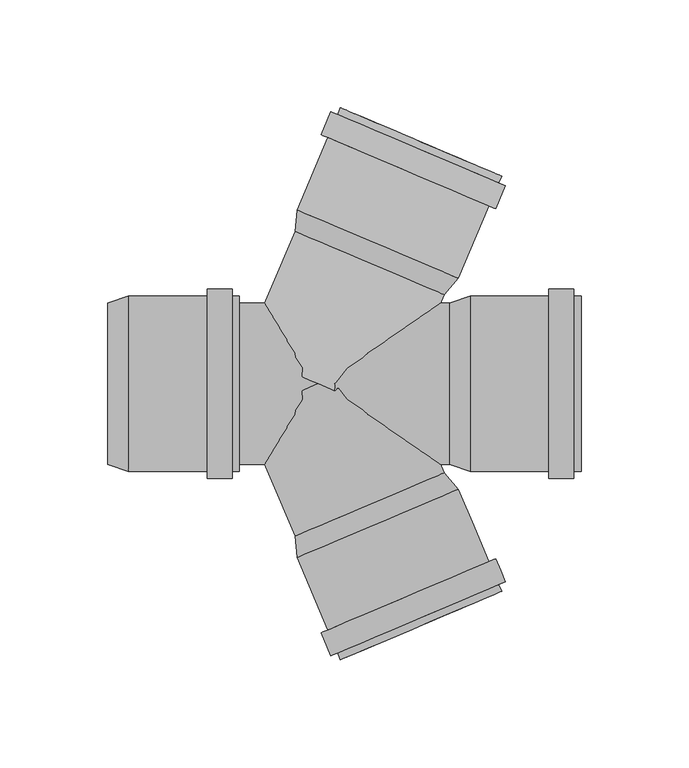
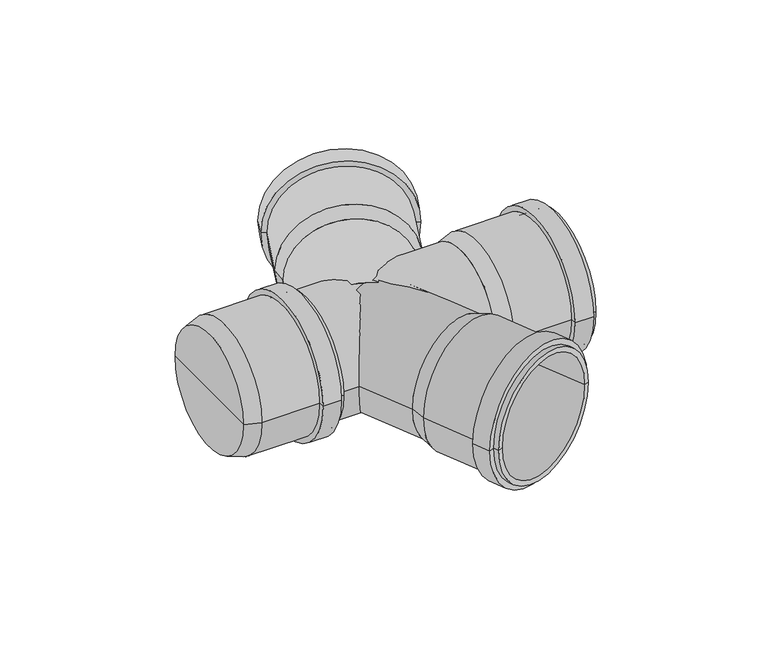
"""IFC4 building model written with IfcOpenShell, lengths in millimetres: pipe fitting geometry, pf_HTDA : pf_HTDA."""

from ifc_helpers import new_model, si_unit, point, frame, origin, origin_2d, place, context, project, spatial, polyline, circle_curve, trimmed, segment, composite_curve, outline, extrude, source, transform, mapped, element, save
from ifc_brep_helpers import plane_surface, cylinder_surface, revolved_surface, advanced_brep


def pipe_fitting_798e2620(model_context):
    return source(origin(), model_context, "Body", "SolidModel", [
        advanced_brep(
        [(58.3144577, 41.4063283, 0.0), (-10.7234063, 70.7111629, 0.0), (-9.8650256, 80.6672255, 0.0), (64.8799685, 48.9398579, 0.0), (23.7955257, 56.0587456, 0.0), (85.0026216, 96.3458578, 0.0), (10.2576275, 128.0732255, 0.0), (13.1111926, 126.861959, 0.0), (82.1490566, 97.5571243, 0.0), (83.6741358, 93.2161413, 0.0), (8.9291417, 124.943509, 0.0), (86.8038523, 91.8876555, 0.0), (5.7994252, 126.2719948, 0.0), (82.2713712, 81.2097992, 0.0), (1.2669441, 115.5941385, 0.0), (79.1416547, 82.538285, 0.0), (4.3966606, 114.2656527, 0.0), (62.0264035, 50.1511244, 0.0), (-7.0114606, 79.455959, 0.0), (27.5074714, 64.8035417, 0.0)],
        [
            (0, 1, circle_curve(frame((23.7955257, 56.0587456, 0.0), z_axis=(0.39073112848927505, 0.9205048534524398, 0.0), x_axis=(-0.9205048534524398, 0.39073112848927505, 0.0)), 37.5)),
            (1, 2),
            (2, 3, circle_curve(frame((27.5074714, 64.8035417, 0.0), z_axis=(-0.39073112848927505, -0.9205048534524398, 0.0), x_axis=(-0.9205048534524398, 0.39073112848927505, 0.0)), 40.6)),
            (3, 0),
            (1, 0, circle_curve(frame((23.7955257, 56.0587456, 0.0), z_axis=(0.39073112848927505, 0.9205048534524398, 0.0), x_axis=(-0.9205048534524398, 0.39073112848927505, 0.0)), 37.5)),
            (3, 2, circle_curve(frame((27.5074714, 64.8035417, 0.0), z_axis=(-0.39073112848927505, -0.9205048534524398, 0.0), x_axis=(-0.9205048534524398, 0.39073112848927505, 0.0)), 40.6)),
            (4, 1),
            (0, 4),
            (5, 6, circle_curve(frame((47.6301246, 112.2095416, 0.0), z_axis=(0.39073112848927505, 0.9205048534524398, 0.0), x_axis=(-0.9205048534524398, 0.39073112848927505, 0.0)), 40.6)),
            (6, 7),
            (7, 8, circle_curve(frame((47.6301246, 112.2095416, 0.0), z_axis=(-0.39073112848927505, -0.9205048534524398, 0.0), x_axis=(-0.9205048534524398, 0.39073112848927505, 0.0)), 37.5)),
            (8, 5),
            (6, 5, circle_curve(frame((47.6301246, 112.2095416, 0.0), z_axis=(0.39073112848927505, 0.9205048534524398, 0.0), x_axis=(-0.9205048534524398, 0.39073112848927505, 0.0)), 40.6)),
            (8, 7, circle_curve(frame((47.6301246, 112.2095416, 0.0), z_axis=(-0.39073112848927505, -0.9205048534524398, 0.0), x_axis=(-0.9205048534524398, 0.39073112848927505, 0.0)), 37.5)),
            (9, 10, circle_curve(frame((46.3016387, 109.0798251, 0.0), z_axis=(0.39073112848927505, 0.9205048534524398, 0.0), x_axis=(-0.9205048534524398, 0.39073112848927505, 0.0)), 40.6)),
            (10, 6),
            (5, 9),
            (10, 9, circle_curve(frame((46.3016387, 109.0798251, 0.0), z_axis=(0.39073112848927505, 0.9205048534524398, 0.0), x_axis=(-0.9205048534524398, 0.39073112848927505, 0.0)), 40.6)),
            (11, 12, circle_curve(frame((46.3016387, 109.0798251, 0.0), z_axis=(0.39073112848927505, 0.9205048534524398, 0.0), x_axis=(-0.9205048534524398, 0.39073112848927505, 0.0)), 44.0)),
            (12, 10),
            (9, 11),
            (12, 11, circle_curve(frame((46.3016387, 109.0798251, 0.0), z_axis=(0.39073112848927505, 0.9205048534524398, 0.0), x_axis=(-0.9205048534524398, 0.39073112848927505, 0.0)), 44.0)),
            (13, 14, circle_curve(frame((41.7691576, 98.4019688, 0.0), z_axis=(0.39073112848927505, 0.9205048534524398, 0.0), x_axis=(-0.9205048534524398, 0.39073112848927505, 0.0)), 44.0)),
            (14, 12),
            (11, 13),
            (14, 13, circle_curve(frame((41.7691576, 98.4019688, 0.0), z_axis=(0.39073112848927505, 0.9205048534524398, 0.0), x_axis=(-0.9205048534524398, 0.39073112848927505, 0.0)), 44.0)),
            (15, 16, circle_curve(frame((41.7691576, 98.4019688, 0.0), z_axis=(0.39073112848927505, 0.9205048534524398, 0.0), x_axis=(-0.9205048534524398, 0.39073112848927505, 0.0)), 40.6)),
            (16, 14),
            (13, 15),
            (16, 15, circle_curve(frame((41.7691576, 98.4019688, 0.0), z_axis=(0.39073112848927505, 0.9205048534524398, 0.0), x_axis=(-0.9205048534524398, 0.39073112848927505, 0.0)), 40.6)),
            (2, 16),
            (15, 3),
            (17, 18, circle_curve(frame((27.5074714, 64.8035417, 0.0), z_axis=(0.39073112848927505, 0.9205048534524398, 0.0), x_axis=(-0.9205048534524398, 0.39073112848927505, 0.0)), 37.5)),
            (18, 19),
            (19, 17),
            (18, 17, circle_curve(frame((27.5074714, 64.8035417, 0.0), z_axis=(0.39073112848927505, 0.9205048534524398, 0.0), x_axis=(-0.9205048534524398, 0.39073112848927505, 0.0)), 37.5)),
            (7, 18),
            (17, 8),
        ],
        [
            revolved_surface(polyline([(-9.8650256, 80.6672255, 0.0), (-10.7234063, 70.7111629, 0.0)]), (23.7955257, 56.0587456, 0.0), (-0.39073112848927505, -0.9205048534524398, 0.0)),
            plane_surface(frame((23.7955257, 56.0587456, 0.0), z_axis=(-0.39073112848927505, -0.9205048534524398, 0.0), x_axis=(-0.9205048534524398, 0.39073112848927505, 0.0))),
            plane_surface(frame((47.6301246, 112.2095416, 0.0), z_axis=(0.39073112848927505, 0.9205048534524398, 0.0), x_axis=(-0.9205048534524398, 0.39073112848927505, 0.0))),
            cylinder_surface(frame((23.7955257, 56.0587456, 0.0), z_axis=(-0.39073112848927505, -0.9205048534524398, 0.0), x_axis=(-0.9205048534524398, 0.39073112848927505, 0.0)), 40.6),
            plane_surface(frame((46.3016387, 109.0798251, 0.0), z_axis=(0.39073112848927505, 0.9205048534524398, 0.0), x_axis=(-0.9205048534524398, 0.39073112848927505, 0.0))),
            cylinder_surface(frame((23.7955257, 56.0587456, 0.0), z_axis=(-0.39073112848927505, -0.9205048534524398, 0.0), x_axis=(-0.9205048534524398, 0.39073112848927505, 0.0)), 44.0),
            plane_surface(frame((41.7691576, 98.4019688, 0.0), z_axis=(-0.39073112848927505, -0.9205048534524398, 0.0), x_axis=(-0.9205048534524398, 0.39073112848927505, 0.0))),
            plane_surface(frame((27.5074714, 64.8035417, 0.0), z_axis=(0.39073112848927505, 0.9205048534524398, 0.0), x_axis=(-0.9205048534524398, 0.39073112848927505, 0.0))),
            revolved_surface(polyline([(-7.01146059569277, 79.45595899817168, 0.0), (13.111192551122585, 126.86195902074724, 0.0)]), (23.7955257, 56.0587456, 0.0), (-0.39073112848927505, -0.9205048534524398, 0.0)),
        ],
        [
            (0, [[1, 2, 3, 4]]),
            (0, [[5, -4, 6, -2]]),
            (1, [[7, -1, 8]]),
            (1, [[-8, -5, -7]]),
            (2, [[9, 10, 11, 12]]),
            (2, [[13, -12, 14, -10]]),
            (3, [[15, 16, -9, 17]]),
            (3, [[18, -17, -13, -16]]),
            (4, [[19, 20, -15, 21]]),
            (4, [[22, -21, -18, -20]]),
            (5, [[23, 24, -19, 25]]),
            (5, [[26, -25, -22, -24]]),
            (6, [[27, 28, -23, 29]]),
            (6, [[30, -29, -26, -28]]),
            (3, [[-3, 31, -27, 32]]),
            (3, [[-6, -32, -30, -31]]),
            (7, [[33, 34, 35]]),
            (7, [[36, -35, -34]]),
            (8, [[-11, 37, -33, 38]]),
            (8, [[-14, -38, -36, -37]]),
        ],
    ),
        advanced_brep(
        [(-10.7234063, -70.7111629, 0.0), (58.3144577, -41.4063283, 0.0), (64.8799685, -48.9398579, 0.0), (-9.8650256, -80.6672255, 0.0), (23.7955257, -56.0587456, 0.0), (10.2576275, -128.0732255, 0.0), (85.0026216, -96.3458578, 0.0), (82.1490566, -97.5571243, 0.0), (13.1111926, -126.861959, 0.0), (8.9291417, -124.943509, 0.0), (83.6741358, -93.2161413, 0.0), (5.7994252, -126.2719948, 0.0), (86.8038523, -91.8876555, 0.0), (1.2669441, -115.5941385, 0.0), (82.2713712, -81.2097992, 0.0), (4.3966606, -114.2656527, 0.0), (79.1416547, -82.538285, 0.0), (-7.0114606, -79.455959, 0.0), (62.0264035, -50.1511244, 0.0), (27.5074714, -64.8035417, 0.0)],
        [
            (0, 1, circle_curve(frame((23.7955257, -56.0587456, 0.0), z_axis=(0.3907311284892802, -0.9205048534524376, 0.0), x_axis=(0.9205048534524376, 0.3907311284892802, 0.0)), 37.5)),
            (1, 2),
            (2, 3, circle_curve(frame((27.5074714, -64.8035417, 0.0), z_axis=(-0.3907311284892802, 0.9205048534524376, 0.0), x_axis=(0.9205048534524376, 0.3907311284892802, 0.0)), 40.6)),
            (3, 0),
            (1, 0, circle_curve(frame((23.7955257, -56.0587456, 0.0), z_axis=(0.3907311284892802, -0.9205048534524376, 0.0), x_axis=(0.9205048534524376, 0.3907311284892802, 0.0)), 37.5)),
            (3, 2, circle_curve(frame((27.5074714, -64.8035417, 0.0), z_axis=(-0.3907311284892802, 0.9205048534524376, 0.0), x_axis=(0.9205048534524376, 0.3907311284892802, 0.0)), 40.6)),
            (4, 1),
            (0, 4),
            (5, 6, circle_curve(frame((47.6301246, -112.2095416, 0.0), z_axis=(0.3907311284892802, -0.9205048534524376, 0.0), x_axis=(0.9205048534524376, 0.3907311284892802, 0.0)), 40.6)),
            (6, 7),
            (7, 8, circle_curve(frame((47.6301246, -112.2095416, 0.0), z_axis=(-0.3907311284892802, 0.9205048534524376, 0.0), x_axis=(0.9205048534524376, 0.3907311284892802, 0.0)), 37.5)),
            (8, 5),
            (6, 5, circle_curve(frame((47.6301246, -112.2095416, 0.0), z_axis=(0.3907311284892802, -0.9205048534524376, 0.0), x_axis=(0.9205048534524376, 0.3907311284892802, 0.0)), 40.6)),
            (8, 7, circle_curve(frame((47.6301246, -112.2095416, 0.0), z_axis=(-0.3907311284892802, 0.9205048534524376, 0.0), x_axis=(0.9205048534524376, 0.3907311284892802, 0.0)), 37.5)),
            (9, 10, circle_curve(frame((46.3016387, -109.0798251, 0.0), z_axis=(0.3907311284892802, -0.9205048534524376, 0.0), x_axis=(0.9205048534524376, 0.3907311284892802, 0.0)), 40.6)),
            (10, 6),
            (5, 9),
            (10, 9, circle_curve(frame((46.3016387, -109.0798251, 0.0), z_axis=(0.3907311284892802, -0.9205048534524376, 0.0), x_axis=(0.9205048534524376, 0.3907311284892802, 0.0)), 40.6)),
            (11, 12, circle_curve(frame((46.3016387, -109.0798251, 0.0), z_axis=(0.3907311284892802, -0.9205048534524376, 0.0), x_axis=(0.9205048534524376, 0.3907311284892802, 0.0)), 44.0)),
            (12, 10),
            (9, 11),
            (12, 11, circle_curve(frame((46.3016387, -109.0798251, 0.0), z_axis=(0.3907311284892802, -0.9205048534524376, 0.0), x_axis=(0.9205048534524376, 0.3907311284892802, 0.0)), 44.0)),
            (13, 14, circle_curve(frame((41.7691576, -98.4019688, 0.0), z_axis=(0.3907311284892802, -0.9205048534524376, 0.0), x_axis=(0.9205048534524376, 0.3907311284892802, 0.0)), 44.0)),
            (14, 12),
            (11, 13),
            (14, 13, circle_curve(frame((41.7691576, -98.4019688, 0.0), z_axis=(0.3907311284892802, -0.9205048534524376, 0.0), x_axis=(0.9205048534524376, 0.3907311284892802, 0.0)), 44.0)),
            (15, 16, circle_curve(frame((41.7691576, -98.4019688, 0.0), z_axis=(0.3907311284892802, -0.9205048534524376, 0.0), x_axis=(0.9205048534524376, 0.3907311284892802, 0.0)), 40.6)),
            (16, 14),
            (13, 15),
            (16, 15, circle_curve(frame((41.7691576, -98.4019688, 0.0), z_axis=(0.3907311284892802, -0.9205048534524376, 0.0), x_axis=(0.9205048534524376, 0.3907311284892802, 0.0)), 40.6)),
            (2, 16),
            (15, 3),
            (17, 18, circle_curve(frame((27.5074714, -64.8035417, 0.0), z_axis=(0.3907311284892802, -0.9205048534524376, 0.0), x_axis=(0.9205048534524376, 0.3907311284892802, 0.0)), 37.5)),
            (18, 19),
            (19, 17),
            (18, 17, circle_curve(frame((27.5074714, -64.8035417, 0.0), z_axis=(0.3907311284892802, -0.9205048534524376, 0.0), x_axis=(0.9205048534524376, 0.3907311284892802, 0.0)), 37.5)),
            (7, 18),
            (17, 8),
        ],
        [
            revolved_surface(polyline([(64.8799685, -48.9398579, 0.0), (58.3144577, -41.4063283, 0.0)]), (23.7955257, -56.0587456, 0.0), (-0.3907311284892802, 0.9205048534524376, 0.0)),
            plane_surface(frame((23.7955257, -56.0587456, 0.0), z_axis=(-0.3907311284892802, 0.9205048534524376, 0.0), x_axis=(0.9205048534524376, 0.3907311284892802, 0.0))),
            plane_surface(frame((47.6301246, -112.2095416, 0.0), z_axis=(0.3907311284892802, -0.9205048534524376, 0.0), x_axis=(0.9205048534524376, 0.3907311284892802, 0.0))),
            cylinder_surface(frame((23.7955257, -56.0587456, 0.0), z_axis=(-0.3907311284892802, 0.9205048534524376, 0.0), x_axis=(0.9205048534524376, 0.3907311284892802, 0.0)), 40.6),
            plane_surface(frame((46.3016387, -109.0798251, 0.0), z_axis=(0.3907311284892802, -0.9205048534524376, 0.0), x_axis=(0.9205048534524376, 0.3907311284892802, 0.0))),
            cylinder_surface(frame((23.7955257, -56.0587456, 0.0), z_axis=(-0.3907311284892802, 0.9205048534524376, 0.0), x_axis=(0.9205048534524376, 0.3907311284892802, 0.0)), 44.0),
            plane_surface(frame((41.7691576, -98.4019688, 0.0), z_axis=(-0.3907311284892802, 0.9205048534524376, 0.0), x_axis=(0.9205048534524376, 0.3907311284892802, 0.0))),
            plane_surface(frame((27.5074714, -64.8035417, 0.0), z_axis=(0.3907311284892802, -0.9205048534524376, 0.0), x_axis=(0.9205048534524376, 0.3907311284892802, 0.0))),
            revolved_surface(polyline([(62.0264034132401, -50.151124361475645, 0.0), (82.14905656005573, -97.5571243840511, 0.0)]), (23.7955257, -56.0587456, 0.0), (-0.3907311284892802, 0.9205048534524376, 0.0)),
        ],
        [
            (0, [[1, 2, 3, 4]]),
            (0, [[5, -4, 6, -2]]),
            (1, [[7, -1, 8]]),
            (1, [[-8, -5, -7]]),
            (2, [[9, 10, 11, 12]]),
            (2, [[13, -12, 14, -10]]),
            (3, [[15, 16, -9, 17]]),
            (3, [[18, -17, -13, -16]]),
            (4, [[19, 20, -15, 21]]),
            (4, [[22, -21, -18, -20]]),
            (5, [[23, 24, -19, 25]]),
            (5, [[26, -25, -22, -24]]),
            (6, [[27, 28, -23, 29]]),
            (6, [[30, -29, -26, -28]]),
            (3, [[-3, 31, -27, 32]]),
            (3, [[-6, -32, -30, -31]]),
            (7, [[33, 34, 35]]),
            (7, [[36, -35, -34]]),
            (8, [[-11, 37, -33, 38]]),
            (8, [[-14, -38, -36, -37]]),
        ],
    ),
        advanced_brep(
        [(60.9, -37.5, 0.0), (60.9, 37.5, 0.0), (70.4, 40.6, 0.0), (70.4, -40.6, 0.0), (60.9, 0.0, 0.0), (121.9, -40.6, 0.0), (121.9, 40.6, 0.0), (121.9, 37.5, 0.0), (121.9, -37.5, 0.0), (118.5, -40.6, 0.0), (118.5, 40.6, 0.0), (118.5, -44.0, 0.0), (118.5, 44.0, 0.0), (106.9, -44.0, 0.0), (106.9, 44.0, 0.0), (106.9, -40.6, 0.0), (106.9, 40.6, 0.0), (70.4, -37.5, 0.0), (70.4, 37.5, 0.0), (70.4, 0.0, 0.0)],
        [
            (0, 1, circle_curve(frame((60.9, 0.0, 0.0), z_axis=(1.0, 0.0, 0.0), x_axis=(0.0, 1.0, 0.0)), 37.5)),
            (1, 2),
            (2, 3, circle_curve(frame((70.4, 0.0, 0.0), z_axis=(-1.0, 0.0, 0.0), x_axis=(0.0, 1.0, 0.0)), 40.6)),
            (3, 0),
            (1, 0, circle_curve(frame((60.9, 0.0, 0.0), z_axis=(1.0, 0.0, 0.0), x_axis=(0.0, 1.0, 0.0)), 37.5)),
            (3, 2, circle_curve(frame((70.4, 0.0, 0.0), z_axis=(-1.0, 0.0, 0.0), x_axis=(0.0, 1.0, 0.0)), 40.6)),
            (4, 1),
            (0, 4),
            (5, 6, circle_curve(frame((121.9, 0.0, 0.0), z_axis=(1.0, 0.0, 0.0), x_axis=(0.0, 1.0, 0.0)), 40.6)),
            (6, 7),
            (7, 8, circle_curve(frame((121.9, 0.0, 0.0), z_axis=(-1.0, 0.0, 0.0), x_axis=(0.0, 1.0, 0.0)), 37.5)),
            (8, 5),
            (6, 5, circle_curve(frame((121.9, 0.0, 0.0), z_axis=(1.0, 0.0, 0.0), x_axis=(0.0, 1.0, 0.0)), 40.6)),
            (8, 7, circle_curve(frame((121.9, 0.0, 0.0), z_axis=(-1.0, 0.0, 0.0), x_axis=(0.0, 1.0, 0.0)), 37.5)),
            (9, 10, circle_curve(frame((118.5, 0.0, 0.0), z_axis=(1.0, 0.0, 0.0), x_axis=(0.0, 1.0, 0.0)), 40.6)),
            (10, 6),
            (5, 9),
            (10, 9, circle_curve(frame((118.5, 0.0, 0.0), z_axis=(1.0, 0.0, 0.0), x_axis=(0.0, 1.0, 0.0)), 40.6)),
            (11, 12, circle_curve(frame((118.5, 0.0, 0.0), z_axis=(1.0, 0.0, 0.0), x_axis=(0.0, 1.0, 0.0)), 44.0)),
            (12, 10),
            (9, 11),
            (12, 11, circle_curve(frame((118.5, 0.0, 0.0), z_axis=(1.0, 0.0, 0.0), x_axis=(0.0, 1.0, 0.0)), 44.0)),
            (13, 14, circle_curve(frame((106.9, 0.0, 0.0), z_axis=(1.0, 0.0, 0.0), x_axis=(0.0, 1.0, 0.0)), 44.0)),
            (14, 12),
            (11, 13),
            (14, 13, circle_curve(frame((106.9, 0.0, 0.0), z_axis=(1.0, 0.0, 0.0), x_axis=(0.0, 1.0, 0.0)), 44.0)),
            (15, 16, circle_curve(frame((106.9, 0.0, 0.0), z_axis=(1.0, 0.0, 0.0), x_axis=(0.0, 1.0, 0.0)), 40.6)),
            (16, 14),
            (13, 15),
            (16, 15, circle_curve(frame((106.9, 0.0, 0.0), z_axis=(1.0, 0.0, 0.0), x_axis=(0.0, 1.0, 0.0)), 40.6)),
            (2, 16),
            (15, 3),
            (17, 18, circle_curve(frame((70.4, 0.0, 0.0), z_axis=(1.0, 0.0, 0.0), x_axis=(0.0, 1.0, 0.0)), 37.5)),
            (18, 19),
            (19, 17),
            (18, 17, circle_curve(frame((70.4, 0.0, 0.0), z_axis=(1.0, 0.0, 0.0), x_axis=(0.0, 1.0, 0.0)), 37.5)),
            (7, 18),
            (17, 8),
        ],
        [
            revolved_surface(polyline([(70.4, 40.6, 0.0), (60.9, 37.5, 0.0)]), (60.9, 0.0, 0.0), (-1.0, 0.0, 0.0)),
            plane_surface(frame((60.9, 0.0, 0.0), z_axis=(-1.0, 0.0, 0.0), x_axis=(0.0, 1.0, 0.0))),
            plane_surface(frame((121.9, 0.0, 0.0), z_axis=(1.0, 0.0, 0.0), x_axis=(0.0, 1.0, 0.0))),
            cylinder_surface(frame((60.9, 0.0, 0.0), z_axis=(-1.0, 0.0, 0.0), x_axis=(0.0, 1.0, 0.0)), 40.6),
            plane_surface(frame((118.5, 0.0, 0.0), z_axis=(1.0, 0.0, 0.0), x_axis=(0.0, 1.0, 0.0))),
            cylinder_surface(frame((60.9, 0.0, 0.0), z_axis=(-1.0, 0.0, 0.0), x_axis=(0.0, 1.0, 0.0)), 44.0),
            plane_surface(frame((106.9, 0.0, 0.0), z_axis=(-1.0, 0.0, 0.0), x_axis=(0.0, 1.0, 0.0))),
            plane_surface(frame((70.4, 0.0, 0.0), z_axis=(1.0, 0.0, 0.0), x_axis=(0.0, 1.0, 0.0))),
            revolved_surface(polyline([(70.4, 37.5, 0.0), (121.9, 37.5, 0.0)]), (60.9, 0.0, 0.0), (-1.0, 0.0, 0.0)),
        ],
        [
            (0, [[1, 2, 3, 4]]),
            (0, [[5, -4, 6, -2]]),
            (1, [[7, -1, 8]]),
            (1, [[-8, -5, -7]]),
            (2, [[9, 10, 11, 12]]),
            (2, [[13, -12, 14, -10]]),
            (3, [[15, 16, -9, 17]]),
            (3, [[18, -17, -13, -16]]),
            (4, [[19, 20, -15, 21]]),
            (4, [[22, -21, -18, -20]]),
            (5, [[23, 24, -19, 25]]),
            (5, [[26, -25, -22, -24]]),
            (6, [[27, 28, -23, 29]]),
            (6, [[30, -29, -26, -28]]),
            (3, [[-3, 31, -27, 32]]),
            (3, [[-6, -32, -30, -31]]),
            (7, [[33, 34, 35]]),
            (7, [[36, -35, -34]]),
            (8, [[-11, 37, -33, 38]]),
            (8, [[-14, -38, -36, -37]]),
        ],
    ),
        advanced_brep(
        [(-97.6, -37.5, 0.0), (-97.6, 37.5, 0.0), (-88.1, 40.6, 0.0), (-88.1, -40.6, 0.0), (-97.6, 0.0, 0.0), (-36.6, -40.6, 0.0), (-36.6, 40.6, 0.0), (-36.6, 37.5, 0.0), (-36.6, -37.5, 0.0), (-40.0, -40.6, 0.0), (-40.0, 40.6, 0.0), (-40.0, -44.0, 0.0), (-40.0, 44.0, 0.0), (-51.6, -44.0, 0.0), (-51.6, 44.0, 0.0), (-51.6, -40.6, 0.0), (-51.6, 40.6, 0.0), (-88.1, -37.5, 0.0), (-88.1, 37.5, 0.0), (-88.1, 0.0, 0.0)],
        [
            (0, 1, circle_curve(frame((-97.6, 0.0, 0.0), z_axis=(1.0, 0.0, 0.0), x_axis=(0.0, 1.0, 0.0)), 37.5)),
            (1, 2),
            (2, 3, circle_curve(frame((-88.1, 0.0, 0.0), z_axis=(-1.0, 0.0, 0.0), x_axis=(0.0, 1.0, 0.0)), 40.6)),
            (3, 0),
            (1, 0, circle_curve(frame((-97.6, 0.0, 0.0), z_axis=(1.0, 0.0, 0.0), x_axis=(0.0, 1.0, 0.0)), 37.5)),
            (3, 2, circle_curve(frame((-88.1, 0.0, 0.0), z_axis=(-1.0, 0.0, 0.0), x_axis=(0.0, 1.0, 0.0)), 40.6)),
            (4, 1),
            (0, 4),
            (5, 6, circle_curve(frame((-36.6, 0.0, 0.0), z_axis=(1.0, 0.0, 0.0), x_axis=(0.0, 1.0, 0.0)), 40.6)),
            (6, 7),
            (7, 8, circle_curve(frame((-36.6, 0.0, 0.0), z_axis=(-1.0, 0.0, 0.0), x_axis=(0.0, 1.0, 0.0)), 37.5)),
            (8, 5),
            (6, 5, circle_curve(frame((-36.6, 0.0, 0.0), z_axis=(1.0, 0.0, 0.0), x_axis=(0.0, 1.0, 0.0)), 40.6)),
            (8, 7, circle_curve(frame((-36.6, 0.0, 0.0), z_axis=(-1.0, 0.0, 0.0), x_axis=(0.0, 1.0, 0.0)), 37.5)),
            (9, 10, circle_curve(frame((-40.0, 0.0, 0.0), z_axis=(1.0, 0.0, 0.0), x_axis=(0.0, 1.0, 0.0)), 40.6)),
            (10, 6),
            (5, 9),
            (10, 9, circle_curve(frame((-40.0, 0.0, 0.0), z_axis=(1.0, 0.0, 0.0), x_axis=(0.0, 1.0, 0.0)), 40.6)),
            (11, 12, circle_curve(frame((-40.0, 0.0, 0.0), z_axis=(1.0, 0.0, 0.0), x_axis=(0.0, 1.0, 0.0)), 44.0)),
            (12, 10),
            (9, 11),
            (12, 11, circle_curve(frame((-40.0, 0.0, 0.0), z_axis=(1.0, 0.0, 0.0), x_axis=(0.0, 1.0, 0.0)), 44.0)),
            (13, 14, circle_curve(frame((-51.6, 0.0, 0.0), z_axis=(1.0, 0.0, 0.0), x_axis=(0.0, 1.0, 0.0)), 44.0)),
            (14, 12),
            (11, 13),
            (14, 13, circle_curve(frame((-51.6, 0.0, 0.0), z_axis=(1.0, 0.0, 0.0), x_axis=(0.0, 1.0, 0.0)), 44.0)),
            (15, 16, circle_curve(frame((-51.6, 0.0, 0.0), z_axis=(1.0, 0.0, 0.0), x_axis=(0.0, 1.0, 0.0)), 40.6)),
            (16, 14),
            (13, 15),
            (16, 15, circle_curve(frame((-51.6, 0.0, 0.0), z_axis=(1.0, 0.0, 0.0), x_axis=(0.0, 1.0, 0.0)), 40.6)),
            (2, 16),
            (15, 3),
            (17, 18, circle_curve(frame((-88.1, 0.0, 0.0), z_axis=(1.0, 0.0, 0.0), x_axis=(0.0, 1.0, 0.0)), 37.5)),
            (18, 19),
            (19, 17),
            (18, 17, circle_curve(frame((-88.1, 0.0, 0.0), z_axis=(1.0, 0.0, 0.0), x_axis=(0.0, 1.0, 0.0)), 37.5)),
            (7, 18),
            (17, 8),
        ],
        [
            revolved_surface(polyline([(-88.1, 40.6, 0.0), (-97.6, 37.5, 0.0)]), (-97.6, 0.0, 0.0), (-1.0, 0.0, 0.0)),
            plane_surface(frame((-97.6, 0.0, 0.0), z_axis=(-1.0, 0.0, 0.0), x_axis=(0.0, 1.0, 0.0))),
            plane_surface(frame((-36.6, 0.0, 0.0), z_axis=(1.0, 0.0, 0.0), x_axis=(0.0, 1.0, 0.0))),
            cylinder_surface(frame((-97.6, 0.0, 0.0), z_axis=(-1.0, 0.0, 0.0), x_axis=(0.0, 1.0, 0.0)), 40.6),
            plane_surface(frame((-40.0, 0.0, 0.0), z_axis=(1.0, 0.0, 0.0), x_axis=(0.0, 1.0, 0.0))),
            cylinder_surface(frame((-97.6, 0.0, 0.0), z_axis=(-1.0, 0.0, 0.0), x_axis=(0.0, 1.0, 0.0)), 44.0),
            plane_surface(frame((-51.6, 0.0, 0.0), z_axis=(-1.0, 0.0, 0.0), x_axis=(0.0, 1.0, 0.0))),
            plane_surface(frame((-88.1, 0.0, 0.0), z_axis=(1.0, 0.0, 0.0), x_axis=(0.0, 1.0, 0.0))),
            revolved_surface(polyline([(-88.1, 37.5, 0.0), (-36.6, 37.5, 0.0)]), (-97.6, 0.0, 0.0), (-1.0, 0.0, 0.0)),
        ],
        [
            (0, [[1, 2, 3, 4]]),
            (0, [[5, -4, 6, -2]]),
            (1, [[7, -1, 8]]),
            (1, [[-8, -5, -7]]),
            (2, [[9, 10, 11, 12]]),
            (2, [[13, -12, 14, -10]]),
            (3, [[15, 16, -9, 17]]),
            (3, [[18, -17, -13, -16]]),
            (4, [[19, 20, -15, 21]]),
            (4, [[22, -21, -18, -20]]),
            (5, [[23, 24, -19, 25]]),
            (5, [[26, -25, -22, -24]]),
            (6, [[27, 28, -23, 29]]),
            (6, [[30, -29, -26, -28]]),
            (3, [[-3, 31, -27, 32]]),
            (3, [[-6, -32, -30, -31]]),
            (7, [[33, 34, 35]]),
            (7, [[36, -35, -34]]),
            (8, [[-11, 37, -33, 38]]),
            (8, [[-14, -38, -36, -37]]),
        ],
    ),
        extrude(outline(composite_curve([segment(trimmed(circle_curve(origin_2d(), 37.5), [point((0.0, 37.5))], [point((0.0, -37.5))], False, "CARTESIAN"), True, "CONTINUOUS"), segment(trimmed(circle_curve(origin_2d(), 37.5), [point((0.0, -37.5))], [point((0.0, 37.5))], False, "CARTESIAN"), True, "CONTINUOUS")], self_intersect=False)), frame((0.0, 0.0, 0.0), z_axis=(0.3907311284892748, 0.9205048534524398, 0.0), x_axis=(0.0, 0.0, 1.0)), (0.0, 0.0, 1.0), 60.9),
        extrude(outline(composite_curve([segment(trimmed(circle_curve(origin_2d(), 37.5), [point((0.0, -37.5))], [point((0.0, 37.5))], False, "CARTESIAN"), True, "CONTINUOUS"), segment(trimmed(circle_curve(origin_2d(), 37.5), [point((0.0, 37.5))], [point((0.0, -37.5))], False, "CARTESIAN"), True, "CONTINUOUS")], self_intersect=False)), frame((23.7955257, -56.0587456, 0.0), z_axis=(-0.39073112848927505, 0.9205048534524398, 0.0), x_axis=(0.0, 0.0, 1.0)), (0.0, 0.0, 1.0), 60.9),
        extrude(outline(composite_curve([segment(trimmed(circle_curve(origin_2d(), 37.5), [point((-37.5, 0.0))], [point((37.5, 0.0))], False, "CARTESIAN"), True, "CONTINUOUS"), segment(trimmed(circle_curve(origin_2d(), 37.5), [point((37.5, 0.0))], [point((-37.5, 0.0))], False, "CARTESIAN"), True, "CONTINUOUS")], self_intersect=False)), frame((-88.1, 0.0, 0.0), z_axis=(1.0, 0.0, 0.0), x_axis=(0.0, 1.0, 0.0)), (0.0, 0.0, 1.0), 149.0),
    ])


if __name__ == "__main__":
    model = new_model("IFC4")
    model_context = context("Model", 3, world=origin())
    ifc_project = project(units=[si_unit("LENGTHUNIT", "METRE", prefix="MILLI")], contexts=[model_context])
    site = spatial("IfcSite", under=ifc_project)
    building = spatial("IfcBuilding", under=site)
    placement = place(None, origin())
    pipe_fitting_shape = pipe_fitting_798e2620(model_context)
    element("IfcPipeFitting", 1, ObjectType="pf_HTDA : pf_HTDA", at=placement, inside=building, context=model_context, shape_type="MappedRepresentation", body=[
        mapped(pipe_fitting_shape, transform((0.0, 0.0, 0.0), x_axis=(1.0, 0.0, 0.0), y_axis=(0.0, 1.0, 0.0), z_axis=(0.0, 0.0, 1.0))),
    ])
    save(model, "model.ifc")
